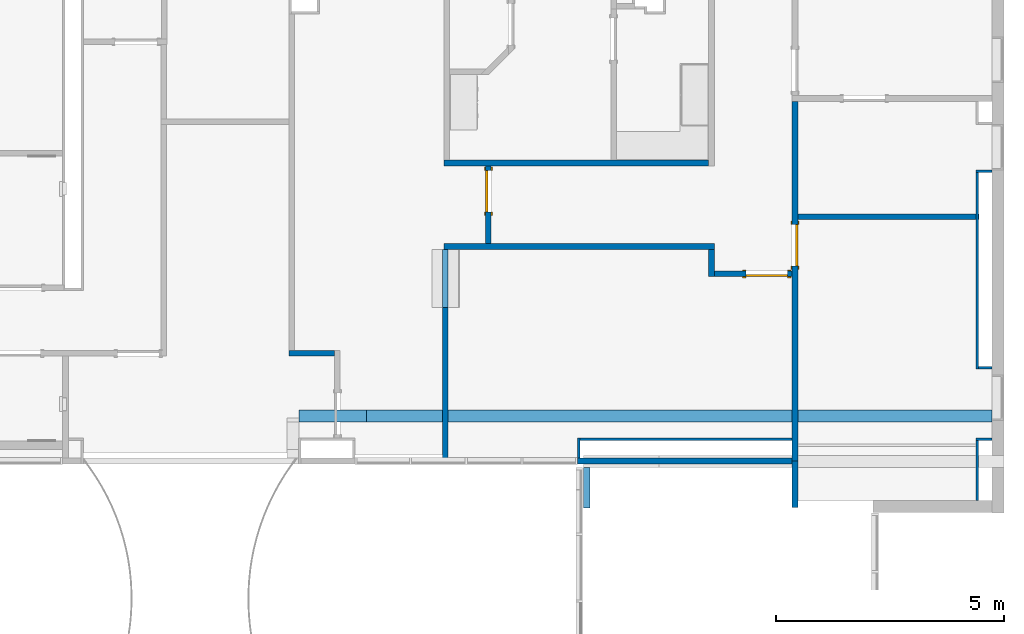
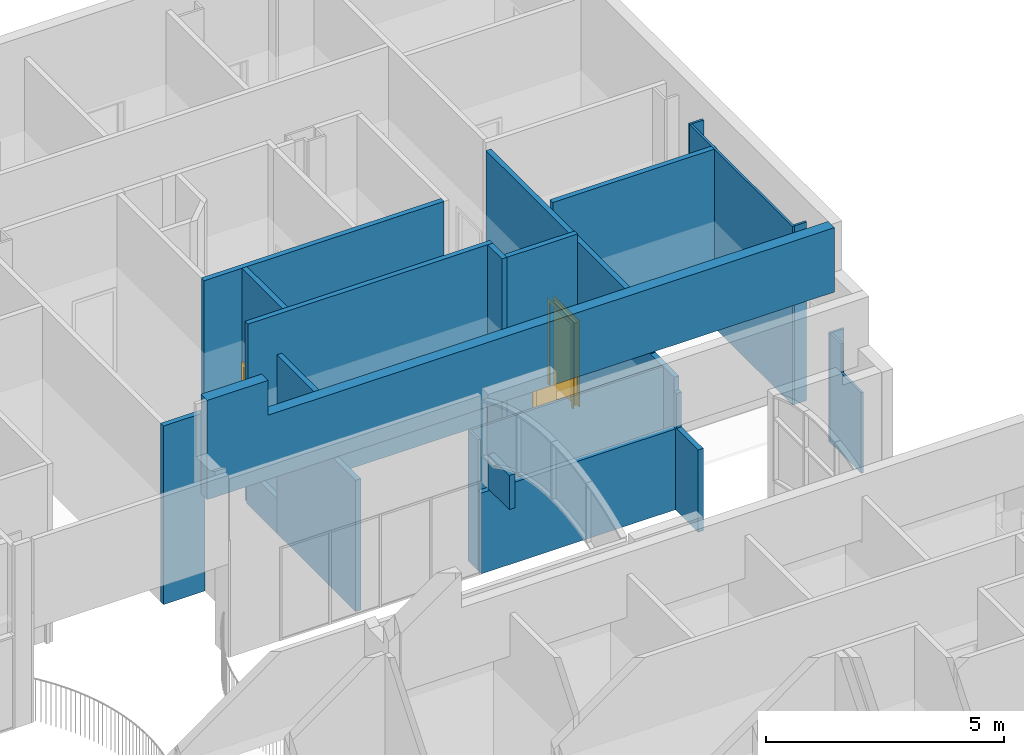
# One storey, part 19 of 47: 21 walls, 3 doors, 8 openings.
"""IFC2X3 building model written with IfcOpenShell, lengths in metres."""

import ifcopenshell
import ifcopenshell.guid

model = None  # the IFC model being written
_history = None  # IfcOwnerHistory: only IFC2X3 demands one
_inside = {}  # id of a spatial element -> (the spatial element, [elements in it])
_under = {}  # id of a project, library or spatial element -> (it, [spatial elements below it])
_declared = {}  # id of a project -> (the project, [libraries it declares])
_typed = {}  # id of a type object -> (the type object, [elements of that type])
_made_of = {}  # id of a material, layer set ... -> (it, [elements and type objects made of it])


def new_model(schema):
    """Start an empty IFC model of exactly this schema.

    Asked for "IFC4X3", IfcOpenShell would pick the latest addendum, in which some entities
    have other attributes; the version numbers below select the first issue.
    IFC2X3 requires an IfcOwnerHistory on every rooted entity: one is made here for all.
    """
    global model, _history
    if schema == "IFC4X3":
        model = ifcopenshell.file(schema_version=(4, 3, 0, 0))
    else:
        model = ifcopenshell.file(schema=schema)
    _inside.clear()
    _under.clear()
    _declared.clear()
    _typed.clear()
    _made_of.clear()
    _history = None
    if model.schema == "IFC2X3":
        org = make("IfcOrganization", Name="unknown")
        user = make(
            "IfcPersonAndOrganization",
            ThePerson=make("IfcPerson", FamilyName="unknown"),
            TheOrganization=org,
        )
        app = make(
            "IfcApplication",
            ApplicationDeveloper=org,
            Version="unknown",
            ApplicationFullName="unknown",
            ApplicationIdentifier="unknown",
        )
        _history = make(
            "IfcOwnerHistory",
            OwningUser=user,
            OwningApplication=app,
            ChangeAction="ADDED",
            CreationDate=0,
        )
    return model


def make(cls, **values):
    """One entity of the class cls with the attributes given. An attribute that is None is left unset."""
    return model.create_entity(
        cls, **{name: value for name, value in values.items() if value is not None}
    )


def entity(cls, *values):
    """Any entity or typed value of the class cls, its attributes in the order of the schema. None: left unset."""
    e = model.create_entity(cls)
    for i, value in enumerate(values):
        if value is not None:
            e[i] = value
    return e


def rooted(cls, **values):
    """An entity with a GlobalId (a new one), such as an element, a storey or a relation."""
    return make(cls, GlobalId=ifcopenshell.guid.new(), OwnerHistory=_history, **values)


def si_unit(unit_type, name, prefix=None):
    """IfcSIUnit, for example si_unit("LENGTHUNIT", "METRE", prefix="MILLI")."""
    return make("IfcSIUnit", UnitType=unit_type, Prefix=prefix, Name=name)


def converted_unit(unit_type, name, factor, base, dimensions=None, offset=None):
    """IfcConversionBasedUnit, such as the inch: factor (a typed value) times the base unit."""
    return make(
        "IfcConversionBasedUnit"
        if offset is None
        else "IfcConversionBasedUnitWithOffset",
        ConversionOffset=offset,
        Dimensions=None
        if dimensions is None
        else entity("IfcDimensionalExponents", *dimensions),
        UnitType=unit_type,
        Name=name,
        ConversionFactor=make(
            "IfcMeasureWithUnit", ValueComponent=factor, UnitComponent=base
        ),
    )


def assignment(units):
    """IfcUnitAssignment: the units of a project."""
    return None if units is None else make("IfcUnitAssignment", Units=units)


def point(xyz):
    """IfcCartesianPoint."""
    return None if xyz is None else make("IfcCartesianPoint", Coordinates=xyz)


def direction(xyz):
    """IfcDirection."""
    return None if xyz is None else make("IfcDirection", DirectionRatios=xyz)


def frame(location, z_axis=None, x_axis=None):
    """IfcAxis2Placement3D, a coordinate frame: its origin and axes. An axis left out is left unset."""
    return make(
        "IfcAxis2Placement3D",
        Location=point(location),
        Axis=direction(z_axis),
        RefDirection=direction(x_axis),
    )


def frame_2d(location, x_axis=None):
    """IfcAxis2Placement2D, a coordinate frame in the plane: its origin and x axis."""
    return make(
        "IfcAxis2Placement2D", Location=point(location), RefDirection=direction(x_axis)
    )


def origin():
    """The frame at (0, 0, 0) with its axes left unset."""
    return frame((0.0, 0.0, 0.0))


def origin_2d_with_axis():
    """The frame at (0, 0) in the plane with the x axis (1, 0) written out."""
    return frame_2d((0.0, 0.0), x_axis=(1.0, 0.0))


def place(relative_to, where):
    """IfcLocalPlacement: puts the frame where relative to a parent placement (None: the world)."""
    return make(
        "IfcLocalPlacement", PlacementRelTo=relative_to, RelativePlacement=where
    )


def context(
    kind, dimensions, precision=None, world=None, true_north=None, identifier=None
):
    """IfcGeometricRepresentationContext, for example the 3D "Model" context."""
    return make(
        "IfcGeometricRepresentationContext",
        ContextIdentifier=identifier,
        ContextType=kind,
        CoordinateSpaceDimension=dimensions,
        Precision=precision,
        WorldCoordinateSystem=world,
        TrueNorth=true_north,
    )


def project(units=None, contexts=None):
    """IfcProject with its units and contexts."""
    return rooted(
        "IfcProject",
        Name="project",
        RepresentationContexts=contexts,
        UnitsInContext=assignment(units),
    )


def spatial(cls, under=None, at=None, **own):
    """A site, building, storey or space (cls), placed at a placement, below another one or the project."""
    s = rooted(cls, ObjectPlacement=at, **own)
    if under is not None:
        _under.setdefault(under.id(), (under, []))[1].append(s)
    return s


def polyline(points):
    """IfcPolyline through the points."""
    return make("IfcPolyline", Points=[point(p) for p in points])


def profile(cls, at=None, kind="AREA", **sizes):
    """A parametric profile (cls). Its sizes go by their IFC names, for example OverallWidth=200.0."""
    return make(cls, ProfileType=kind, Position=at, **sizes)


def rectangle(**sizes):
    """IfcRectangleProfileDef."""
    return profile("IfcRectangleProfileDef", **sizes)


def outline(outer, holes=None, kind="AREA"):
    """IfcArbitraryClosedProfileDef: a profile drawn as a closed curve; with holes, ...WithVoids."""
    if holes is None:
        return make("IfcArbitraryClosedProfileDef", ProfileType=kind, OuterCurve=outer)
    return make(
        "IfcArbitraryProfileDefWithVoids",
        ProfileType=kind,
        OuterCurve=outer,
        InnerCurves=holes,
    )


def extrude(swept, where, along, depth):
    """IfcExtrudedAreaSolid: the profile swept, set in the frame where, extruded along a direction by depth."""
    return make(
        "IfcExtrudedAreaSolid",
        SweptArea=swept,
        Position=where,
        ExtrudedDirection=direction(along),
        Depth=depth,
    )


def clip(a, b, op="DIFFERENCE"):
    """IfcBooleanClippingResult: the solid a cut by the half space b."""
    return make(
        "IfcBooleanClippingResult", Operator=op, FirstOperand=a, SecondOperand=b
    )


def halfspace(plane, agree):
    """IfcHalfSpaceSolid: all space on one side of the plane z = 0 of the frame plane."""
    return make(
        "IfcHalfSpaceSolid",
        BaseSurface=make("IfcPlane", Position=plane),
        AgreementFlag=agree,
    )


def bounded_halfspace(plane, agree, where, boundary):
    """IfcPolygonalBoundedHalfSpace: a half space limited to a polygon's prism."""
    return make(
        "IfcPolygonalBoundedHalfSpace",
        BaseSurface=make("IfcPlane", Position=plane),
        AgreementFlag=agree,
        Position=where,
        PolygonalBoundary=boundary,
    )


def shape(context_of_items, identifier, shape_type, items):
    """IfcShapeRepresentation: the items that make up one representation, for example the "Body"."""
    return make(
        "IfcShapeRepresentation",
        ContextOfItems=context_of_items,
        RepresentationIdentifier=identifier,
        RepresentationType=shape_type,
        Items=items,
    )


def source(mapping_origin, context_of_items, identifier, shape_type, items):
    """IfcRepresentationMap: a shape defined once, which mapped items show again and again."""
    return make(
        "IfcRepresentationMap",
        MappingOrigin=mapping_origin,
        MappedRepresentation=shape(context_of_items, identifier, shape_type, items),
    )


def transform(
    local_origin,
    x_axis=None,
    y_axis=None,
    z_axis=None,
    scale=None,
    scale2=None,
    scale3=None,
    uniform=True,
):
    """IfcCartesianTransformationOperator3D, or its non-uniform kind. x_axis, y_axis, z_axis: its Axis1, 2, 3."""
    if uniform:
        return make(
            "IfcCartesianTransformationOperator3D",
            Axis1=direction(x_axis),
            Axis2=direction(y_axis),
            LocalOrigin=point(local_origin),
            Scale=scale,
            Axis3=direction(z_axis),
        )
    return make(
        "IfcCartesianTransformationOperator3DnonUniform",
        Axis1=direction(x_axis),
        Axis2=direction(y_axis),
        LocalOrigin=point(local_origin),
        Scale=scale,
        Axis3=direction(z_axis),
        Scale2=scale2,
        Scale3=scale3,
    )


def mapped(mapping_source, mapping_target):
    """IfcMappedItem: shows the shape of a source again, moved by a transform."""
    return make(
        "IfcMappedItem", MappingSource=mapping_source, MappingTarget=mapping_target
    )


def material(Name=None, Category=None):
    """IfcMaterial."""
    return make("IfcMaterial", Name=Name, Category=Category)


def layer(
    of_material, thickness, ventilated=None, Name=None, Category=None, Priority=None
):
    """IfcMaterialLayer: one layer of a wall or slab, of a material (None: an air gap)."""
    return make(
        "IfcMaterialLayer",
        Material=of_material,
        LayerThickness=thickness,
        IsVentilated=ventilated,
        Name=Name,
        Category=Category,
        Priority=Priority,
    )


def layer_set(layers, Name=None):
    """IfcMaterialLayerSet."""
    return make("IfcMaterialLayerSet", MaterialLayers=layers, LayerSetName=Name)


def layer_usage(for_layer_set, set_direction, sense, offset, extent=None):
    """IfcMaterialLayerSetUsage: how a layer set lies in its element."""
    return make(
        "IfcMaterialLayerSetUsage",
        ForLayerSet=for_layer_set,
        LayerSetDirection=set_direction,
        DirectionSense=sense,
        OffsetFromReferenceLine=offset,
        ReferenceExtent=extent,
    )


def made_of(thing, what):
    """Note that an element or type object is made of a material, layer set ...; save() writes the relation."""
    if what is not None:
        _made_of.setdefault(what.id(), (what, []))[1].append(thing)
    return thing


def type_object(cls, material=None, **own):
    """A type object (cls), such as IfcWallType, which elements share."""
    return made_of(rooted(cls, **own), material)


def type_shapes(of_type, sources):
    """Give a type object the sources (RepresentationMaps) that its elements show as mapped items."""
    of_type.RepresentationMaps = sources


def element(
    cls,
    number,
    at=None,
    inside=None,
    cuts=None,
    type_object=None,
    material=None,
    context=None,
    identifier="Body",
    shape_type=None,
    held_by="IfcProductDefinitionShape",
    body=None,
    shapes=None,
    **own,
):
    """One element of the class cls, such as IfcWall. Its Tag is "e" and its number.

    at: its placement. inside: the storey or other place that contains it. cuts: it is an
    opening in that element (IfcRelVoidsElement). A single representation is given by context,
    identifier, shape_type and body (its items); several are given by shapes. held_by: the class
    of the entity that holds the representations. save() writes the other relations.
    """
    e = rooted(cls, Tag="e%d" % number, ObjectPlacement=at, **own)
    if body is not None:
        shapes = [shape(context, identifier, shape_type, body)]
    if shapes is not None:
        e.Representation = make(held_by, Representations=shapes)
    if inside is not None:
        _inside.setdefault(inside.id(), (inside, []))[1].append(e)
    if cuts is not None:
        rooted(
            "IfcRelVoidsElement", RelatingBuildingElement=cuts, RelatedOpeningElement=e
        )
    if type_object is not None:
        _typed.setdefault(type_object.id(), (type_object, []))[1].append(e)
    return made_of(e, material)


def fill(opening, filler):
    """IfcRelFillsElement: the door or window that sits in an opening."""
    return rooted(
        "IfcRelFillsElement",
        RelatingOpeningElement=opening,
        RelatedBuildingElement=filler,
    )


def aggregate(whole, parts):
    """IfcRelAggregates: a whole, such as a stair, and the parts it consists of."""
    return rooted("IfcRelAggregates", RelatingObject=whole, RelatedObjects=parts)


def save(model, path):
    """Write the relations noted so far, then the file.

    IfcRelAggregates (storeys below a building ...), IfcRelContainedInSpatialStructure (elements
    in a storey), IfcRelDefinesByType, IfcRelAssociatesMaterial and IfcRelDeclares: one each for
    every whole, place, type object, material and project.
    """
    for whole, parts in _under.values():
        aggregate(whole, parts)
    for where, things in _inside.values():
        rooted(
            "IfcRelContainedInSpatialStructure",
            RelatedElements=things,
            RelatingStructure=where,
        )
    for kind, things in _typed.values():
        rooted("IfcRelDefinesByType", RelatedObjects=things, RelatingType=kind)
    for what, things in _made_of.values():
        rooted("IfcRelAssociatesMaterial", RelatedObjects=things, RelatingMaterial=what)
    for by, libraries in _declared.values():
        rooted("IfcRelDeclares", RelatingContext=by, RelatedDefinitions=libraries)
    model.write(path)


model = new_model("IFC2X3")

# Units and contexts
model_context = context("Model", 3, precision=1e-09, world=origin())
plan_context = context("Plan", 3, precision=1e-09, world=origin())
ifc_project = project(units=[si_unit("LENGTHUNIT", "METRE"), si_unit("AREAUNIT", "SQUARE_METRE"), si_unit("VOLUMEUNIT", "CUBIC_METRE"), converted_unit("PLANEANGLEUNIT", "DEGREE", entity("IfcRatioMeasure", 0.01745329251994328), si_unit("PLANEANGLEUNIT", "RADIAN"), dimensions=[0, 0, 0, 0, 0, 0, 0]), si_unit("TIMEUNIT", "SECOND")], contexts=[model_context, plan_context])

# Site, building, storey
site_placement = place(None, origin())
site = spatial("IfcSite", under=ifc_project, at=site_placement, Name="Default", CompositionType="ELEMENT")
building_placement = place(site_placement, origin())
building = spatial("IfcBuilding", under=site, at=building_placement, CompositionType="ELEMENT")
storey_placement = place(building_placement, frame((0.0, 0.0, 4.570000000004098)))
storey = spatial("IfcBuildingStorey", under=building, at=storey_placement, Name="Second Floor", CompositionType="ELEMENT", Elevation=4.570000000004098)

# Wall
ifc_material_1 = material(Name="Plasterboard")
ifc_layer_1 = layer(ifc_material_1, 0.016)
ifc_material_2 = material(Name="Metal - Stud Layer")
ifc_layer_2 = layer(ifc_material_2, 0.092)
ifc_layer_3 = layer(ifc_material_1, 0.016)
ifc_layer_set_1 = layer_set([ifc_layer_1, ifc_layer_2, ifc_layer_3], Name="Basic Wall:Interior - Partition (92mm Stud)")
ifc_layer_usage_1 = layer_usage(ifc_layer_set_1, "AXIS2", "NEGATIVE", 0.062)
wall_1_placement = place(storey_placement, frame((-6.104000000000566, 41.31643871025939, 0.0), z_axis=(0.0, 0.0, 1.0), x_axis=(-1.0, 0.0, 0.0)))
element("IfcWallStandardCase", 1, at=wall_1_placement, inside=storey, material=ifc_layer_usage_1, Name="Basic Wall:Interior - Partition (92mm Stud)", ObjectType="Basic Wall:Interior - Partition (92mm Stud)", context=model_context, shape_type="SweptSolid", body=[
    extrude(rectangle(XDim=5.815999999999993, YDim=0.1240000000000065, at=frame_2d((2.907999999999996, 0.0), x_axis=(-1.0, 0.0))), origin(), (0.0, 0.0, 1.0), 4.577999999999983),
])

# Wall, openings, door
ifc_layer_usage_2 = layer_usage(ifc_layer_set_1, "AXIS2", "NEGATIVE", 0.062)
wall_2_placement = place(storey_placement, frame((-4.20800000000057, 42.6704387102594, 0.0), z_axis=(0.0, 0.0, 1.0), x_axis=(0.0, -1.0, 0.0)))
wall_2 = element("IfcWallStandardCase", 2, at=wall_2_placement, inside=storey, material=ifc_layer_usage_2, Name="Basic Wall:Interior - Partition (92mm Stud)", ObjectType="Basic Wall:Interior - Partition (92mm Stud)", context=model_context, shape_type="Clipping", body=[
    clip(extrude(rectangle(XDim=7.898637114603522, YDim=0.124, at=frame_2d((3.949318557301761, 0.0), x_axis=(-1.0, 0.0))), origin(), (0.0, 0.0, 1.0), 4.379999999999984), halfspace(frame((7.898637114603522, 0.0, 3.35319999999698), z_axis=(0.7191531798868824, 0.0, 0.6948515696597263), x_axis=(0.0, 1.0, 0.0)), False)),
])
opening_1_placement = place(wall_2_placement, frame((7.237235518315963, 0.06199999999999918, 3.695466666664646)))
element("IfcOpeningElement", 3, at=opening_1_placement, cuts=wall_2, Name="Basic Wall:Interior - Partition (92mm Stud):2", ObjectType="Opening", context=model_context, shape_type="SweptSolid", body=[
    extrude(outline(polyline([(-0.7057180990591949, -0.2378245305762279), (0.7220722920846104, -0.2378245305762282), (-0.01635419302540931, 0.4756490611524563), (-0.7057180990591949, -0.2378245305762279)])), frame((0.0, 0.0, 0.0), z_axis=(0.0, -1.0, 0.0), x_axis=(-0.6948515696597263, 0.0, 0.7191531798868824)), (0.0, 0.0, 1.0), 0.124),
])
opening_2_placement = place(wall_2_placement, frame((2.703500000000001, -0.06200000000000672, 0.0)))
opening_2 = element("IfcOpeningElement", 4, at=opening_2_placement, cuts=wall_2, Name="M_Single-Flush:0915 x 2134mm:0915 x 2134mm:1", ObjectType="Opening", context=model_context, shape_type="SweptSolid", body=[
    extrude(rectangle(XDim=0.9149999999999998, YDim=2.134, at=frame_2d((1.067, 0.4574999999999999), x_axis=(0.0, -1.0))), frame((0.0, 0.0, 0.0), z_axis=(0.0, 1.0, 0.0), x_axis=(0.0, 0.0, 1.0)), (0.0, 0.0, 1.0), 0.124),
])
door_style_1 = type_object("IfcDoorStyle", Name="0915 x 2134mm", ConstructionType="NOTDEFINED", OperationType="SINGLE_SWING_LEFT", ParameterTakesPrecedence=False, Sizeable=False)
shared_shape_1 = source(origin(), model_context, "Body", "SweptSolid", [
    extrude(outline(polyline([(-0.5335, -1.123999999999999), (0.5334999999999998, -1.123999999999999), (0.5334999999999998, 1.086), (0.4574999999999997, 1.086), (0.4574999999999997, -1.048000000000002), (-0.4574999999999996, -1.048000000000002), (-0.4574999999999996, 1.086), (-0.5335, 1.086), (-0.5335, -1.123999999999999)])), frame((0.4575000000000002, 0.1489999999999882, 1.086), z_axis=(0.0, -1.0, 0.0), x_axis=(-1.0, 0.0, 0.0)), (0.0, 0.0, 1.0), 0.02499999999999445),
    extrude(outline(polyline([(-1.123999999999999, -0.5334999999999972), (1.085999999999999, -0.5334999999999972), (1.085999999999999, -0.4575000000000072), (-1.048, -0.4575000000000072), (-1.048, 0.4575000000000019), (1.085999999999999, 0.4575000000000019), (1.085999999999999, 0.5335000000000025), (-1.123999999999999, 0.5335000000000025), (-1.123999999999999, -0.5334999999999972)])), frame((0.4574999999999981, 0.0, 1.085999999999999), z_axis=(0.0, -1.0, 0.0), x_axis=(0.0, 0.0, -1.0)), (0.0, 0.0, 1.0), 0.02500000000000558),
    extrude(rectangle(XDim=0.9149999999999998, YDim=0.051, at=origin_2d_with_axis()), frame((0.4575000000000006, 0.09849999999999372, 0.0)), (0.0, 0.0, 1.0), 2.133999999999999),
])
type_shapes(door_style_1, [shared_shape_1])
door_1_placement = place(opening_2_placement, origin())
door_1 = element("IfcDoor", 5, at=door_1_placement, inside=storey, type_object=door_style_1, Name="M_Single-Flush:0915 x 2134mm:0915 x 2134mm", ObjectType="0915 x 2134mm", OverallHeight=2.134, OverallWidth=0.9149999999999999, context=model_context, shape_type="MappedRepresentation", body=[
    mapped(shared_shape_1, transform((0.0, 0.0, 0.0), scale=1.0)),
])
fill(opening_2, door_1)

# Walls
ifc_layer_usage_3 = layer_usage(ifc_layer_set_1, "AXIS2", "NEGATIVE", 0.062)
wall_3_placement = place(storey_placement, frame((-0.1680000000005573, 40.13643871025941, 0.0), z_axis=(0.0, 0.0, 1.0), x_axis=(-1.0, 0.0, 0.0)))
element("IfcWallStandardCase", 6, at=wall_3_placement, inside=storey, material=ifc_layer_usage_3, Name="Basic Wall:Interior - Partition (92mm Stud)", ObjectType="Basic Wall:Interior - Partition (92mm Stud)", context=model_context, shape_type="SweptSolid", body=[
    extrude(rectangle(XDim=3.978000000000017, YDim=0.1240000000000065, at=frame_2d((1.989000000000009, 0.0), x_axis=(-1.0, 0.0))), origin(), (0.0, 0.0, 1.0), 4.577999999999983),
])
ifc_layer_usage_4 = layer_usage(ifc_layer_set_1, "AXIS2", "NEGATIVE", 0.062)
wall_4_placement = place(storey_placement, frame((-11.92000000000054, 39.4824387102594, 0.0)))
element("IfcWallStandardCase", 7, at=wall_4_placement, inside=storey, material=ifc_layer_usage_4, Name="Basic Wall:Interior - Partition (92mm Stud)", ObjectType="Basic Wall:Interior - Partition (92mm Stud)", context=model_context, shape_type="SweptSolid", body=[
    extrude(rectangle(XDim=5.940000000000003, YDim=0.1240000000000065, at=frame_2d((2.970000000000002, 0.0), x_axis=(-1.0, 0.0))), origin(), (0.0, 0.0, 1.0), 4.577999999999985),
])
ifc_layer_usage_5 = layer_usage(ifc_layer_set_1, "AXIS2", "NEGATIVE", 0.062)
wall_5_placement = place(storey_placement, frame((-6.042000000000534, 39.42043871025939, 0.0), z_axis=(0.0, 0.0, 1.0), x_axis=(0.0, -1.0, 0.0)))
element("IfcWallStandardCase", 8, at=wall_5_placement, inside=storey, material=ifc_layer_usage_5, Name="Basic Wall:Interior - Partition (92mm Stud)", ObjectType="Basic Wall:Interior - Partition (92mm Stud)", context=model_context, shape_type="SweptSolid", body=[
    extrude(rectangle(XDim=0.5999999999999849, YDim=0.124, at=frame_2d((0.2999999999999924, 0.0), x_axis=(-1.0, 0.0))), origin(), (0.0, 0.0, 1.0), 4.577999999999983),
])

# Wall, opening, door
ifc_layer_usage_6 = layer_usage(ifc_layer_set_1, "AXIS2", "NEGATIVE", 0.062)
wall_6_placement = place(storey_placement, frame((-5.980000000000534, 38.88243871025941, 0.0)))
wall_6 = element("IfcWallStandardCase", 9, at=wall_6_placement, inside=storey, material=ifc_layer_usage_6, Name="Basic Wall:Interior - Partition (92mm Stud)", ObjectType="Basic Wall:Interior - Partition (92mm Stud)", context=model_context, shape_type="SweptSolid", body=[
    extrude(rectangle(XDim=1.709999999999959, YDim=0.1239999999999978, at=frame_2d((0.8549999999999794, 0.0), x_axis=(-1.0, 0.0))), origin(), (0.0, 0.0, 1.0), 4.577999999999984),
])
opening_3_placement = place(wall_6_placement, frame((1.609999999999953, 0.0619999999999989, 0.0)))
opening_3 = element("IfcOpeningElement", 10, at=opening_3_placement, cuts=wall_6, Name="M_Single-Flush:0915 x 2134mm:0915 x 2134mm:1", ObjectType="Opening", context=model_context, shape_type="SweptSolid", body=[
    extrude(rectangle(XDim=0.9149999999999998, YDim=2.134, at=frame_2d((1.067, 0.4575000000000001), x_axis=(0.0, -1.0))), frame((0.0, 0.0, 0.0), z_axis=(0.0, -1.0, 0.0), x_axis=(0.0, 0.0, 1.0)), (0.0, 0.0, 1.0), 0.124),
])
door_2_placement = place(opening_3_placement, frame((0.0, 0.0, 0.0), z_axis=(0.0, 0.0, 1.0), x_axis=(-1.0, 0.0, 0.0)))
door_2 = element("IfcDoor", 11, at=door_2_placement, inside=storey, type_object=door_style_1, Name="M_Single-Flush:0915 x 2134mm:0915 x 2134mm", ObjectType="0915 x 2134mm", OverallHeight=2.134, OverallWidth=0.9149999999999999, context=model_context, shape_type="MappedRepresentation", body=[
    mapped(shared_shape_1, transform((0.0, 0.0, 0.0), scale=1.0)),
])
fill(opening_3, door_2)

ifc_layer_usage_7 = layer_usage(ifc_layer_set_1, "AXIS2", "NEGATIVE", 0.062)
wall_7_placement = place(storey_placement, frame((-10.94300000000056, 39.54443871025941, 0.0), z_axis=(0.0, 0.0, 1.0), x_axis=(0.0, 1.0, 0.0)))
wall_7 = element("IfcWallStandardCase", 12, at=wall_7_placement, inside=storey, material=ifc_layer_usage_7, Name="Basic Wall:Interior - Partition (92mm Stud)", ObjectType="Basic Wall:Interior - Partition (92mm Stud)", context=model_context, shape_type="SweptSolid", body=[
    extrude(rectangle(XDim=1.710000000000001, YDim=0.1240000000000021, at=frame_2d((0.8550000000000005, 0.0), x_axis=(-1.0, 0.0))), origin(), (0.0, 0.0, 1.0), 4.577999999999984),
])
opening_4_placement = place(wall_7_placement, frame((0.694999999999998, -0.06200000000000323, 0.0)))
opening_4 = element("IfcOpeningElement", 13, at=opening_4_placement, cuts=wall_7, Name="M_Single-Flush:0915 x 2134mm:0915 x 2134mm:1", ObjectType="Opening", context=model_context, shape_type="SweptSolid", body=[
    extrude(rectangle(XDim=0.9149999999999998, YDim=2.134, at=frame_2d((1.067, 0.4575), x_axis=(0.0, 1.0))), frame((0.0, 0.0, 0.0), z_axis=(0.0, 1.0, 0.0), x_axis=(0.0, 0.0, 1.0)), (0.0, 0.0, 1.0), 0.124),
])
door_style_2 = type_object("IfcDoorStyle", Name="0915 x 2134mm", ConstructionType="NOTDEFINED", OperationType="SINGLE_SWING_RIGHT", ParameterTakesPrecedence=False, Sizeable=False)
shared_shape_2 = source(origin(), model_context, "Body", "SweptSolid", [
    extrude(outline(polyline([(-0.5335, -1.123999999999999), (0.5334999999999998, -1.123999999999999), (0.5334999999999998, 1.086), (0.4574999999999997, 1.086), (0.4574999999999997, -1.048000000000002), (-0.4574999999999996, -1.048000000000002), (-0.4574999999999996, 1.086), (-0.5335, 1.086), (-0.5335, -1.123999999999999)])), frame((0.4575000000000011, 0.1239999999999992, 1.086), z_axis=(0.0, 1.0, 0.0), x_axis=(1.0, 0.0, 0.0)), (0.0, 0.0, 1.0), 0.02499999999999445),
    extrude(outline(polyline([(-1.123999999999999, -0.5334999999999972), (1.085999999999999, -0.5334999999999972), (1.085999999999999, -0.4575000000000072), (-1.048, -0.4575000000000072), (-1.048, 0.4575000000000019), (1.085999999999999, 0.4575000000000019), (1.085999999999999, 0.5335000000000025), (-1.123999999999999, 0.5335000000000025), (-1.123999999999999, -0.5334999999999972)])), frame((0.4575000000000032, -0.02500000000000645, 1.085999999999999), z_axis=(0.0, 1.0, 0.0), x_axis=(0.0, 0.0, -1.0)), (0.0, 0.0, 1.0), 0.02500000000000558),
    extrude(rectangle(XDim=0.051, YDim=0.9149999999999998, at=origin_2d_with_axis()), frame((0.4575000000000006, 0.09849999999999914, 0.0), z_axis=(0.0, 0.0, 1.0), x_axis=(0.0, 1.0, 0.0)), (0.0, 0.0, 1.0), 2.133999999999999),
])
type_shapes(door_style_2, [shared_shape_2])
door_3_placement = place(opening_4_placement, origin())
door_3 = element("IfcDoor", 14, at=door_3_placement, inside=storey, type_object=door_style_2, Name="M_Single-Flush:0915 x 2134mm:0915 x 2134mm", ObjectType="0915 x 2134mm", OverallHeight=2.134, OverallWidth=0.9149999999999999, context=model_context, shape_type="MappedRepresentation", body=[
    mapped(shared_shape_2, transform((0.0, 0.0, 0.0), scale=1.0)),
])
fill(opening_4, door_3)

# Walls
ifc_layer_4 = layer(ifc_material_2, 0.038)
ifc_layer_5 = layer(ifc_material_1, 0.016)
ifc_layer_set_2 = layer_set([ifc_layer_4, ifc_layer_5], Name="Basic Wall:Interior - Furring (38 mm Stud)")
ifc_layer_usage_8 = layer_usage(ifc_layer_set_2, "AXIS2", "POSITIVE", -0.027)
wall_8_placement = place(storey_placement, frame((-8.954726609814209, 34.8338015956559, 0.0), z_axis=(0.0, 0.0, 1.0), x_axis=(0.0, 1.0, 0.0)))
element("IfcWallStandardCase", 15, at=wall_8_placement, inside=storey, material=ifc_layer_usage_8, Name="Basic Wall:Interior - Furring (38 mm Stud)", ObjectType="Basic Wall:Interior - Furring (38 mm Stud)", context=model_context, shape_type="SweptSolid", body=[
    extrude(rectangle(XDim=0.4406371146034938, YDim=0.05400000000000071, at=frame_2d((0.2203185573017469, 0.0), x_axis=(-1.0, 0.0))), origin(), (0.0, 0.0, 1.0), 3.366499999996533),
])
ifc_layer_usage_9 = layer_usage(ifc_layer_set_2, "AXIS2", "POSITIVE", -0.027)
wall_9_placement = place(storey_placement, frame((-8.927726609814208, 35.2474387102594, 0.0)))
element("IfcWallStandardCase", 16, at=wall_9_placement, inside=storey, material=ifc_layer_usage_9, Name="Basic Wall:Interior - Furring (38 mm Stud)", ObjectType="Basic Wall:Interior - Furring (38 mm Stud)", context=model_context, shape_type="SweptSolid", body=[
    extrude(rectangle(XDim=4.657726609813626, YDim=0.05399999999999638, at=frame_2d((2.328863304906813, 0.0), x_axis=(-1.0, 0.0))), origin(), (0.0, 0.0, 1.0), 3.366499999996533),
])

# Wall, opening
ifc_layer_usage_10 = layer_usage(ifc_layer_set_1, "AXIS2", "NEGATIVE", 0.062)
wall_10_placement = place(storey_placement, frame((-11.89200000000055, 38.1449715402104, 0.0), z_axis=(0.0, 0.0, 1.0), x_axis=(0.0, -1.0, 0.0)))
wall_10 = element("IfcWallStandardCase", 17, at=wall_10_placement, inside=storey, material=ifc_layer_usage_10, Name="Basic Wall:Interior - Partition (92mm Stud)", ObjectType="Basic Wall:Interior - Partition (92mm Stud)", context=model_context, shape_type="Clipping", body=[
    clip(extrude(rectangle(XDim=3.311169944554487, YDim=0.1240000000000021, at=frame_2d((1.655584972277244, 0.0), x_axis=(-1.0, 0.0))), origin(), (0.0, 0.0, 1.0), 4.577999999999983), halfspace(frame((3.373169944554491, 0.0, 3.366499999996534), z_axis=(0.7736833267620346, 0.0, 0.6335724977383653), x_axis=(0.0, 1.0, 0.0)), False)),
])
opening_5_placement = place(wall_10_placement, frame((2.711768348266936, 0.06200000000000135, 3.770333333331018)))
element("IfcOpeningElement", 18, at=opening_5_placement, cuts=wall_10, Name="Basic Wall:Interior - Partition (92mm Stud):2", ObjectType="Opening", context=model_context, shape_type="SweptSolid", body=[
    extrude(outline(polyline([(-0.731484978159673, -0.2558576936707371), (0.8344011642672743, -0.255857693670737), (-0.1029161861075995, 0.5117153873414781), (-0.731484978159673, -0.2558576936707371)])), frame((0.0, 0.0, 0.0), z_axis=(0.0, -1.0, 0.0), x_axis=(-0.6335724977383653, 0.0, 0.7736833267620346)), (0.0, 0.0, 1.0), 0.124),
])

# Walls
ifc_layer_usage_11 = layer_usage(ifc_layer_set_1, "AXIS2", "NEGATIVE", 0.062)
wall_11_placement = place(storey_placement, frame((-14.32000000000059, 37.13643871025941, 0.0), z_axis=(0.0, 0.0, 1.0), x_axis=(-1.0, 0.0, 0.0)))
element("IfcWallStandardCase", 19, at=wall_11_placement, inside=storey, material=ifc_layer_usage_11, Name="Basic Wall:Interior - Partition (92mm Stud)", ObjectType="Basic Wall:Interior - Partition (92mm Stud)", context=model_context, shape_type="SweptSolid", body=[
    extrude(rectangle(XDim=1.000000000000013, YDim=0.1239999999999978, at=frame_2d((0.5000000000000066, 0.0), x_axis=(-1.0, 0.0))), origin(), (0.0, 0.0, 1.0), 4.577999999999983),
])
ifc_layer_usage_12 = layer_usage(ifc_layer_set_1, "AXIS2", "NEGATIVE", 0.062)
wall_12_placement = place(storey_placement, frame((-8.981726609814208, 34.7718015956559, 0.0)))
element("IfcWallStandardCase", 20, at=wall_12_placement, inside=storey, material=ifc_layer_usage_12, Name="Basic Wall:Interior - Partition (92mm Stud)", ObjectType="Basic Wall:Interior - Partition (92mm Stud)", context=model_context, shape_type="SweptSolid", body=[
    extrude(rectangle(XDim=4.711726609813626, YDim=0.1239999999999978, at=frame_2d((2.355863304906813, 0.0), x_axis=(-1.0, 0.0))), origin(), (0.0, 0.0, 1.0), 2.071499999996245),
])

# Wall, opening
ifc_layer_usage_13 = layer_usage(ifc_layer_set_1, "AXIS2", "NEGATIVE", 0.062)
wall_13_placement = place(storey_placement, frame((-4.208000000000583, 34.77180159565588, 0.0), z_axis=(0.0, 0.0, 1.0), x_axis=(0.0, -1.0, 0.0)))
wall_13 = element("IfcWallStandardCase", 21, at=wall_13_placement, inside=storey, material=ifc_layer_usage_13, Name="Basic Wall:Interior - Partition (92mm Stud)", ObjectType="Basic Wall:Interior - Partition (92mm Stud)", context=model_context, shape_type="Clipping", body=[
    clip(extrude(rectangle(XDim=1.017801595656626, YDim=0.124, at=frame_2d((0.5089007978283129, 0.0), x_axis=(-1.0, 0.0))), origin(), (0.0, 0.0, 1.0), 2.999999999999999), halfspace(frame((1.079801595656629, 0.0, 2.109499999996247), z_axis=(0.6732558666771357, 0.0, 0.7394095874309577), x_axis=(0.0, 1.0, 0.0)), False)),
])
opening_6_placement = place(wall_13_placement, frame((0.427801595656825, 0.06199999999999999, 2.40633333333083)))
element("IfcOpeningElement", 22, at=opening_6_placement, cuts=wall_13, Name="Basic Wall:Interior - Partition (92mm Stud):2", ObjectType="Opening", context=model_context, shape_type="SweptSolid", body=[
    extrude(outline(polyline([(-0.6819398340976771, -0.2194814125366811), (0.6407370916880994, -0.2194814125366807), (0.04120274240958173, 0.4389628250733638), (-0.6819398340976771, -0.2194814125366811)])), frame((0.0, 0.0, 0.0), z_axis=(0.0, -1.0, 0.0), x_axis=(-0.7394095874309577, 0.0, 0.6732558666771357)), (0.0, 0.0, 1.0), 0.124),
])

ifc_material_3 = material(Name="Insulation - Insulated Panel")
ifc_layer_6 = layer(ifc_material_3, 0.042)
ifc_material_4 = material(Name="Metal - Firring")
ifc_layer_7 = layer(ifc_material_4, 0.038)
ifc_material_5 = material(Name="Wood - Sheathing - plywood")
ifc_layer_8 = layer(ifc_material_5, 0.019)
ifc_layer_9 = layer(ifc_material_2, 0.152)
ifc_layer_10 = layer(ifc_material_1, 0.016)
ifc_layer_set_3 = layer_set([ifc_layer_6, ifc_layer_7, ifc_layer_8, ifc_layer_9, ifc_layer_10], Name="Basic Wall:Exterior - Insul Panel on Mtl. Stud")
ifc_layer_usage_14 = layer_usage(ifc_layer_set_3, "AXIS2", "NEGATIVE", 0.1335)
wall_14_placement = place(storey_placement, frame((0.1129999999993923, 35.76390399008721, 3.486499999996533), z_axis=(0.0, 0.0, 1.0), x_axis=(-1.0, 0.0, 0.0)))
wall_14 = element("IfcWallStandardCase", 23, at=wall_14_placement, inside=storey, material=ifc_layer_usage_14, Name="Basic Wall:Exterior - Insul Panel on Mtl. Stud", ObjectType="Basic Wall:Exterior - Insul Panel on Mtl. Stud", context=model_context, shape_type="Clipping", body=[
    clip(extrude(rectangle(XDim=15.20949999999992, YDim=0.267, at=frame_2d((7.604749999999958, 0.0), x_axis=(-1.0, 0.0))), origin(), (0.0, 0.0, 1.0), 2.544328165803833), halfspace(frame((13.73299999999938, 0.0, 2.544328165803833), z_axis=(-0.06432603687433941, 0.0, 0.9979289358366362), x_axis=(0.0, 1.0, 0.0)), False)),
])
opening_7_placement = place(wall_14_placement, frame((9.110833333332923, 0.1335, 1.94844272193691)))
element("IfcOpeningElement", 24, at=opening_7_placement, cuts=wall_14, Name="Basic Wall:Exterior - Insul Panel on Mtl. Stud:2", ObjectType="Opening", context=model_context, shape_type="SweptSolid", body=[
    extrude(outline(polyline([(-4.650924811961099, 0.2973256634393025), (-4.5934283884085, -0.5946513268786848), (9.244353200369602, 0.2973256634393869), (-4.650924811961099, 0.2973256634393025)])), frame((0.0, 0.0, 0.0), z_axis=(0.0, 1.0, 0.0), x_axis=(-0.9979289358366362, 0.0, -0.06432603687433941)), (0.0, 0.0, -1.0), 0.267),
])

# Walls
ifc_layer_usage_15 = layer_usage(ifc_layer_set_3, "AXIS2", "POSITIVE", -0.1335)
wall_15_placement = place(storey_placement, frame((-8.848226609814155, 33.74400000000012, 2.1915), z_axis=(0.0, 0.0, 1.0), x_axis=(0.0, 1.0, 0.0)))
element("IfcWallStandardCase", 25, at=wall_15_placement, inside=storey, material=ifc_layer_usage_15, Name="Basic Wall:Exterior - Insul Panel on Mtl. Stud", ObjectType="Basic Wall:Exterior - Insul Panel on Mtl. Stud", context=model_context, shape_type="Clipping", body=[
    clip(extrude(rectangle(XDim=0.8859999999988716, YDim=0.2669999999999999, at=frame_2d((0.4429999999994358, 0.0), x_axis=(-1.0, 0.0))), origin(), (0.0, 0.0, 1.0), 0.8785000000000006), bounded_halfspace(frame((0.8859999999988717, 0.009500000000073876, 0.0), z_axis=(0.0, -1.0, 0.0), x_axis=(1.0, 0.0, 0.0)), True, frame((0.8859999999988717, 0.009500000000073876, 0.0), z_axis=(0.0, -1.0, 0.0), x_axis=(1.0, 0.0, 0.0)), polyline([(0.0, 0.0), (0.0, 0.8785000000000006), (-0.4927914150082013, 0.8785000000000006), (-0.8859999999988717, 0.8785000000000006), (-0.8859999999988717, 0.0), (0.0, 0.0)]))),
])
ifc_layer_usage_16 = layer_usage(ifc_layer_set_2, "AXIS2", "NEGATIVE", 0.027)
wall_16_placement = place(storey_placement, frame((0.1129999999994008, 41.1374387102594, 0.0), z_axis=(0.0, 0.0, 1.0), x_axis=(-1.0, 0.0, 0.0)))
element("IfcWallStandardCase", 26, at=wall_16_placement, inside=storey, material=ifc_layer_usage_16, Name="Basic Wall:Interior - Furring (38 mm Stud)", ObjectType="Basic Wall:Interior - Furring (38 mm Stud)", context=model_context, shape_type="SweptSolid", body=[
    extrude(rectangle(XDim=0.3429999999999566, YDim=0.05400000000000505, at=frame_2d((0.1714999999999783, 0.0), x_axis=(-1.0, 0.0))), origin(), (0.0, 0.0, 1.0), 4.577999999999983),
])
ifc_layer_usage_17 = layer_usage(ifc_layer_set_2, "AXIS2", "NEGATIVE", 0.027)
wall_17_placement = place(storey_placement, frame((-0.2030000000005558, 41.1104387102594, 0.0), z_axis=(0.0, 0.0, 1.0), x_axis=(0.0, -1.0, 0.0)))
element("IfcWallStandardCase", 27, at=wall_17_placement, inside=storey, material=ifc_layer_usage_17, Name="Basic Wall:Interior - Furring (38 mm Stud)", ObjectType="Basic Wall:Interior - Furring (38 mm Stud)", context=model_context, shape_type="SweptSolid", body=[
    extrude(rectangle(XDim=4.314800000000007, YDim=0.05400000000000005, at=frame_2d((2.157400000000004, 0.0), x_axis=(-1.0, 0.0))), origin(), (0.0, 0.0, 1.0), 4.577999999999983),
])
ifc_layer_usage_18 = layer_usage(ifc_layer_set_2, "AXIS2", "NEGATIVE", 0.027)
wall_18_placement = place(storey_placement, frame((-0.1760000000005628, 36.82263871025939, 0.0)))
element("IfcWallStandardCase", 28, at=wall_18_placement, inside=storey, material=ifc_layer_usage_18, Name="Basic Wall:Interior - Furring (38 mm Stud)", ObjectType="Basic Wall:Interior - Furring (38 mm Stud)", context=model_context, shape_type="SweptSolid", body=[
    extrude(rectangle(XDim=0.2889999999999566, YDim=0.05399999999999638, at=frame_2d((0.1444999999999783, 0.0), x_axis=(-1.0, 0.0))), origin(), (0.0, 0.0, 1.0), 4.577999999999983),
])
ifc_layer_usage_19 = layer_usage(ifc_layer_set_2, "AXIS2", "NEGATIVE", 0.027)
wall_19_placement = place(storey_placement, frame((0.1129999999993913, 35.2474387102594, 0.0), z_axis=(0.0, 0.0, 1.0), x_axis=(-1.0, 0.0, 0.0)))
element("IfcWallStandardCase", 29, at=wall_19_placement, inside=storey, material=ifc_layer_usage_19, Name="Basic Wall:Interior - Furring (38 mm Stud)", ObjectType="Basic Wall:Interior - Furring (38 mm Stud)", context=model_context, shape_type="SweptSolid", body=[
    extrude(rectangle(XDim=0.3429999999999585, YDim=0.05399999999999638, at=frame_2d((0.1714999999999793, 0.0), x_axis=(-1.0, 0.0))), origin(), (0.0, 0.0, 1.0), 2.799999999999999),
])

# Wall, opening
ifc_layer_usage_20 = layer_usage(ifc_layer_set_2, "AXIS2", "NEGATIVE", 0.027)
wall_20_placement = place(storey_placement, frame((-0.2030000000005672, 35.2204387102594, 0.0), z_axis=(0.0, 0.0, 1.0), x_axis=(0.0, -1.0, 0.0)))
wall_20 = element("IfcWallStandardCase", 30, at=wall_20_placement, inside=storey, material=ifc_layer_usage_20, Name="Basic Wall:Interior - Furring (38 mm Stud)", ObjectType="Basic Wall:Interior - Furring (38 mm Stud)", context=model_context, shape_type="Clipping", body=[
    clip(extrude(rectangle(XDim=1.313438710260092, YDim=0.05400000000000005, at=frame_2d((0.656719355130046, 0.0), x_axis=(-1.0, 0.0))), origin(), (0.0, 0.0, 1.0), 2.799999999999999), halfspace(frame((1.446938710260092, 0.0, 2.071499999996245), z_axis=(0.5926855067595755, 0.0, 0.8054339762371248), x_axis=(0.0, 1.0, 0.0)), False)),
])
opening_8_placement = place(wall_20_placement, frame((0.786938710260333, 0.02700000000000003, 2.31433333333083)))
element("IfcOpeningElement", 31, at=opening_8_placement, cuts=wall_20, Name="Basic Wall:Interior - Furring (38 mm Stud):2", ObjectType="Opening", context=model_context, shape_type="SweptSolid", body=[
    extrude(outline(polyline([(-0.6755102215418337, -0.1955862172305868), (0.5536408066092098, -0.195586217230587), (0.1218694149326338, 0.3911724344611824), (-0.6755102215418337, -0.1955862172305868)])), frame((0.0, 0.0, 0.0), z_axis=(0.0, -1.0, 0.0), x_axis=(-0.8054339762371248, 0.0, 0.5926855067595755)), (0.0, 0.0, 1.0), 0.05400000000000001),
])

# Wall
ifc_layer_usage_21 = layer_usage(ifc_layer_set_1, "AXIS2", "POSITIVE", -0.062)
wall_21_placement = place(storey_placement, frame((-11.89200000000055, 38.1449715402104, 0.0), z_axis=(0.0, 0.0, 1.0), x_axis=(0.0, 1.0, 0.0)))
element("IfcWallStandardCase", 32, at=wall_21_placement, inside=storey, material=ifc_layer_usage_21, Name="Basic Wall:Interior - Partition (92mm Stud)", ObjectType="Basic Wall:Interior - Partition (92mm Stud)", context=model_context, shape_type="SweptSolid", body=[
    extrude(rectangle(XDim=1.275467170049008, YDim=0.1240000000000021, at=frame_2d((0.6377335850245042, 0.0), x_axis=(-1.0, 0.0))), origin(), (0.0, 0.0, 1.0), 0.8900000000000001),
])

save(model, "model.ifc")
